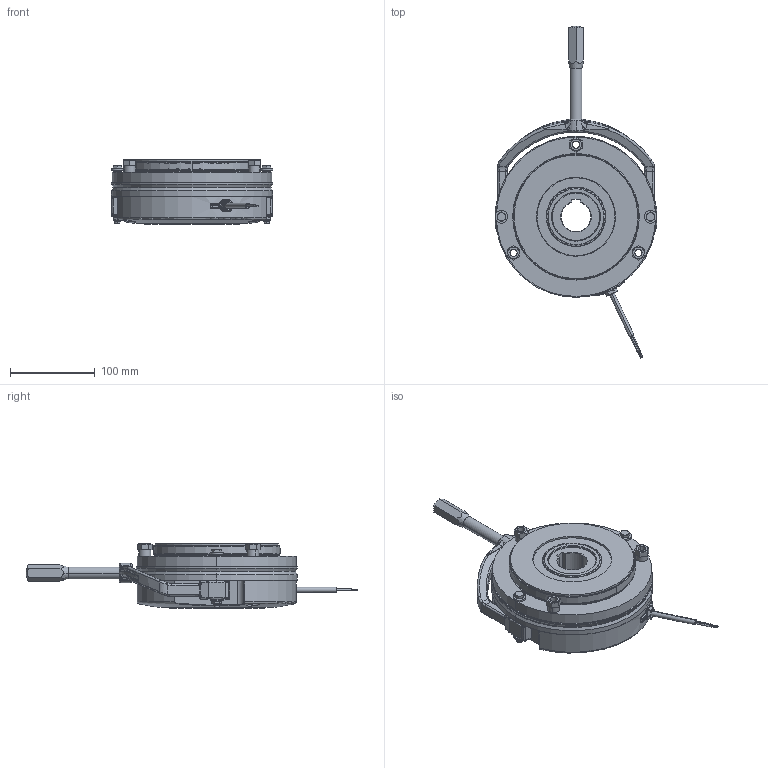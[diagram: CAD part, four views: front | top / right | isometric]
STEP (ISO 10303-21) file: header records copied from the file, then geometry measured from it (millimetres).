
FILE_DESCRIPTION (( 'STEP AP214' ), '1' );
FILE_NAME ('0738 mit HL.STEP', '2025-03-26T12:23:23', ( '' ), ( '' ), 'SwSTEP 2.0', 'SolidWorks 2022', '' );
FILE_SCHEMA (( 'AUTOMOTIVE_DESIGN' ));
Length unit declared in the file: millimetre
Products named in the file (7): 10068448_000; 10068444_000; 10068445_000; 10068450_000; 0738 mit HL; 10068447_000_07.08.540-G352 Nabe; 10068446_000
Assembly tree (8 placements, depth 2):
  0738 mit HL
    10068444_000
    10068445_000
    10068448_000
    10068446_000  x3
    10068447_000_07.08.540-G352 Nabe
    10068450_000
Bounding box: 191 x 391.53 x 75.5 mm (x, y, z)
Volume: 1740549.3 mm3; surface area: 301250.4 mm2
Topology: 22 solids, 22 shells, 1716 faces, 4306 edges, 2648 vertices
Faces by surface type: cylinder 473, plane 460, bspline 363, cone 209, torus 198, sphere 13
Entity records: 76536 total; most frequent: CARTESIAN_POINT 31147, ORIENTED_EDGE 8380, DIRECTION 6961, EDGE_CURVE 4190, AXIS2_PLACEMENT_3D 2782, VERTEX_POINT 2600, EDGE_LOOP 1792, ADVANCED_FACE 1682
